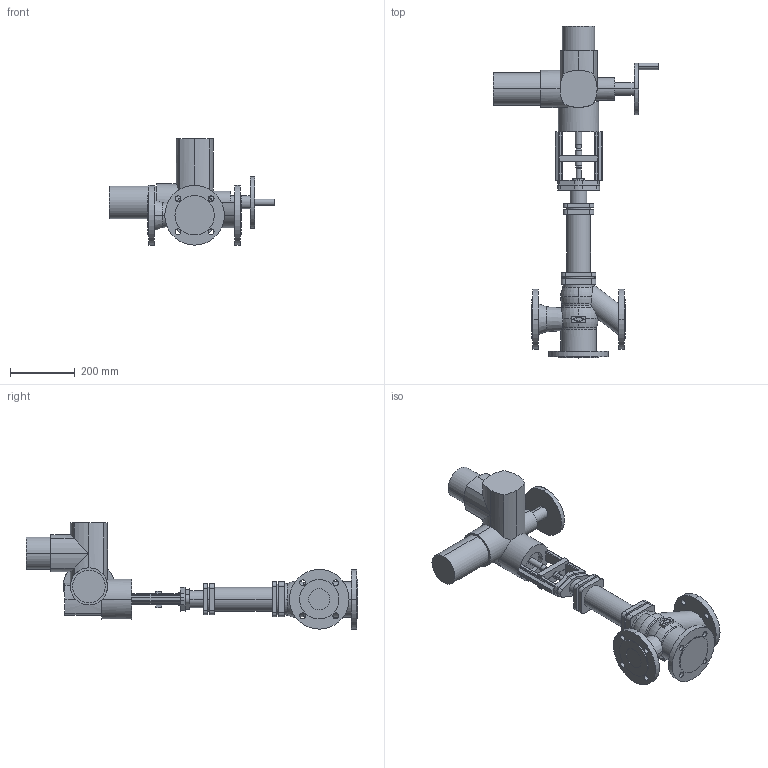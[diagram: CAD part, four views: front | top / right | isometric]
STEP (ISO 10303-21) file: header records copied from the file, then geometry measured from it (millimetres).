
FILE_DESCRIPTION(('OneSpaceDesigner STEP Export'),'2;1');
FILE_NAME('c000003191.stp','2007-01-25T11:46:49',(''),(''),'OneSpace Designer STEP processor for AP214 (Solid Model)','OneSpace Designer 14.00B 27-May-2006 (C) CoCreate Software GmbH','');
FILE_SCHEMA(('AUTOMOTIVE_DESIGN { 1 0 10303 214 1 1 1 1 }'));
Length unit declared in the file: millimetre
Products named in the file (2): 1; 2
Bounding box: 514 x 1029 x 329.5 mm (x, y, z)
Volume: 14421571.8 mm3; surface area: 861541.4 mm2
Topology: 2 solids, 2 shells, 348 faces, 894 edges, 572 vertices
Faces by surface type: plane 162, cylinder 160, torus 18, cone 8
Entity records: 10077 total; most frequent: CARTESIAN_POINT 2132, ORIENTED_EDGE 1788, DIRECTION 1494, EDGE_CURVE 894, VERTEX_POINT 572, AXIS2_PLACEMENT_3D 514, VECTOR 466, LINE 466
